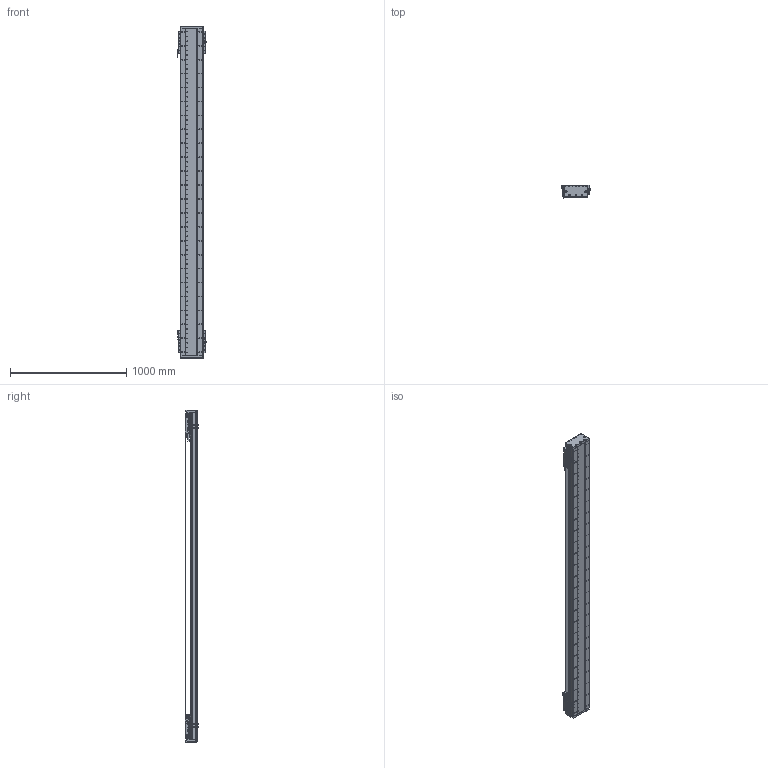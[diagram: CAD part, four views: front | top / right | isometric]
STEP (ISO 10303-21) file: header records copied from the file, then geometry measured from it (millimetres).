
FILE_DESCRIPTION (( 'STEP AP203' ), '1' );
FILE_NAME ('DA-C195-2-C2-T2360-C010-0.2 眻盄萇儂.STEP', '2025-08-14T02:10:40', ( '' ), ( '' ), 'SwSTEP 2.0', 'SolidWorks 2019', '' );
FILE_SCHEMA (( 'CONFIG_CONTROL_DESIGN' ));
Length unit declared in the file: millimetre
Products named in the file (19): CU195-C2賑輸-俋楷-1; DKW-KGZ-ZJ-00 中间光电开关支架-1; PM-T45ㄗ侂狟ㄘ-1; IU-CU195-L 菁釱絳寢-1; PM-Y65嫖萇羲壽郪璃-1; MS200 棠掑喜S315-T1740-1; DA195詩湍郪璃-1; DA-C195-2-C2-T2360-C010-0.2 眻盄萇儂; DA195詩湍嶺輸-1; DA-C195-GD-DB-H-00 傷啣-1; 葩璃 DA95-GT-T-00-1; DKW168-HXJ-ZJ-00 笢潔滅袉砎蝶-1; DA95-HXJ-00 遣喳砎蝶-1; DA195詩湍裔啣-1; DKW-GYP-ZJ-00 笢潔嫖萇覜茼え-1; DA165-GYP-00 光电感应片(默认)-1; IU-CU195-L-00 菁釱(L2820); LMT黍杅芛-1; DA195詩湍菜輸-1
Assembly tree (37 placements, depth 3):
  DA-C195-2-C2-T2360-C010-0.2 眻盄萇儂
    DA195詩湍郪璃-1
      DA195詩湍菜輸-1  x2
      DA195詩湍裔啣-1
      DA195詩湍嶺輸-1  x2
      DA95-HXJ-00 遣喳砎蝶-1  x8
      DA-C195-GD-DB-H-00 傷啣-1  x2
    IU-CU195-L 菁釱絳寢-1
      IU-CU195-L-00 菁釱(L2820)
      葩璃 DA95-GT-T-00-1  x4
    LMT黍杅芛-1  x2
    MS200 棠掑喜S315-T1740-1
    PM-T45ㄗ侂狟ㄘ-1  x4
    DA165-GYP-00 光电感应片(默认)-1  x2
    PM-Y65嫖萇羲壽郪璃-1
    DKW168-HXJ-ZJ-00 笢潔滅袉砎蝶-1
    DKW-GYP-ZJ-00 笢潔嫖萇覜茼え-1
    DKW-KGZ-ZJ-00 中间光电开关支架-1
    CU195-C2賑輸-俋楷-1  x2
Bounding box: 258.2 x 115.45 x 2860 mm (x, y, z)
Volume: 17465475.9 mm3; surface area: 5093109.2 mm2
Topology: 114 solids, 242 shells, 7117 faces, 19007 edges, 11841 vertices
Faces by surface type: cylinder 3404, plane 2629, cone 916, torus 88, sphere 72, bspline 8
Entity records: 156699 total; most frequent: CARTESIAN_POINT 42739, ORIENTED_EDGE 23846, DIRECTION 22674, EDGE_CURVE 11923, AXIS2_PLACEMENT_3D 8361, VERTEX_POINT 7728, LINE 5952, VECTOR 5952
